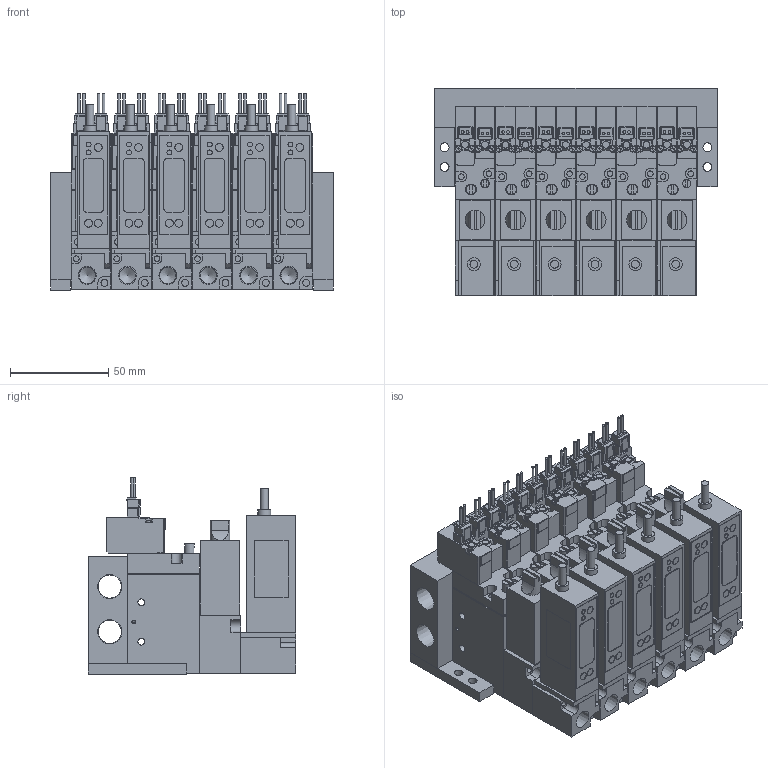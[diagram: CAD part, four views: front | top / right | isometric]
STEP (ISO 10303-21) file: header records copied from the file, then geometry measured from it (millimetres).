
FILE_DESCRIPTION(('STEP AP203'),'1');
FILE_NAME('BMPV32M2NV(R)G25AL606.stp','2025-06-17T00:51:18',(' '),(' '),'Spatial InterOp 3D',' ',' ');
FILE_SCHEMA(('CONFIG_CONTROL_DESIGN'));
Length unit declared in the file: millimetre
Products named in the file (76): BMPV32M2NV(R)G25AL606; Pressure sensor VGL; ___-3(Rc); Filter Assy; __; _____; ___ ___; BMPV32 MB06; MB BRACKET; ___; upper plate-A; ______; ____; VACUUM VALVE FUNCTION MPV42-A; UV280-4E
Assembly tree (75 placements, depth 2):
  BMPV32M2NV(R)G25AL606
    Pressure sensor VGL
    ___-3(Rc)
    Filter Assy
    __
    _____
    ___ ___
    Pressure sensor VGL
    ___-3(Rc)
    Filter Assy
    __
    _____
    ___ ___
    Pressure sensor VGL
    ___-3(Rc)
    Filter Assy
    __
    _____
    ___ ___
    Pressure sensor VGL
    ___-3(Rc)
    Filter Assy
    __
    _____
    ___ ___
    Pressure sensor VGL
    ___-3(Rc)
    Filter Assy
    __
    _____
    ___ ___
    BMPV32 MB06
    MB BRACKET
    MB BRACKET
    Pressure sensor VGL
    ___-3(Rc)
    Filter Assy
    __
    _____
    ___ ___
    ___
    upper plate-A
    ______
    ____
    VACUUM VALVE FUNCTION MPV42-A
    ___
    upper plate-A
    ______
    ____
    VACUUM VALVE FUNCTION MPV42-A
    ___
    upper plate-A
    ______
    ____
    VACUUM VALVE FUNCTION MPV42-A
    ___
    upper plate-A
    ______
    ____
    VACUUM VALVE FUNCTION MPV42-A
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Bounding box: 143.5 x 105.5 x 99.75 mm (x, y, z)
Volume: 796273.5 mm3; surface area: 258684.6 mm2
Topology: 75 solids, 75 shells, 2411 faces, 6256 edges, 4156 vertices
Faces by surface type: plane 1923, cylinder 438, cone 50
Full cylindrical faces by diameter (mm): 1.4 x24, 1.8 x12, 2 x12, 2.5 x28, 2.8 x24, 3 x24, 3.5 x64, 4 x30, 4.2 x6, 4.5 x4, 5 x6, 5.5 x6, 6.5 x12, 8.2 x6, 8.759 x6, 11.776 x2
Entity records: 74964 total; most frequent: CARTESIAN_POINT 12789, DIRECTION 11820, ORIENTED_EDGE 11596, EDGE_CURVE 5798, LINE 4702, VECTOR 4702, VERTEX_POINT 4060, AXIS2_PLACEMENT_3D 3559
